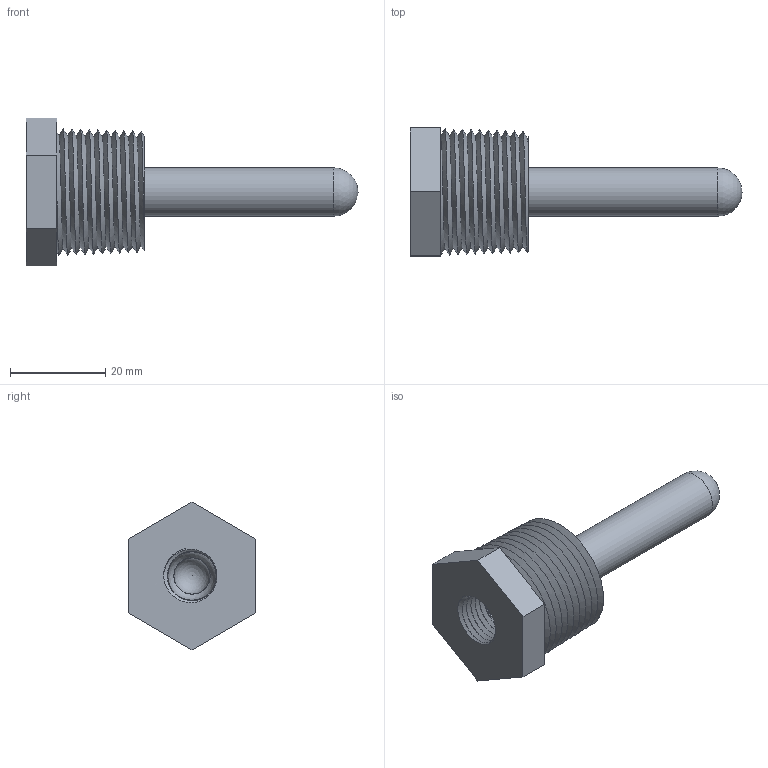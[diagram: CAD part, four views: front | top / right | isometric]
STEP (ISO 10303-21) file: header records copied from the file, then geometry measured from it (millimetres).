
FILE_DESCRIPTION(/* description */ (''),/* implementation_level */ '2;1');
FILE_NAME(/* name */ 'R:\Temp\J. Narvaez\IAN DRAWINGS\002 - Sensors\005 - MCS-WELL\14-002-3_4-B.stp',/* time_stamp */ '2022-11-14T09:48:53-05:00',/* author */ ('mjeter'),/* organization */ ('unknown'),/* preprocessor_version */ 'ST-DEVELOPER v19',/* originating_system */ 'Autodesk Inventor 2023',/* authorisation */ '');
FILE_SCHEMA (('AUTOMOTIVE_DESIGN { 1 0 10303 214 3 1 1 }'));
Length unit declared in the file: inch
Products named in the file (1): 14-002-3_4-B
Bounding box: 69.85 x 26.92 x 31.09 mm (x, y, z)
Volume: 12866.8 mm3; surface area: 7619.3 mm2
Topology: 1 solids, 1 shells, 21 faces, 62 edges, 44 vertices
Faces by surface type: plane 11, bspline 4, cylinder 3, sphere 2, cone 1
Full cylindrical faces by diameter (mm): 7.62 x1, 10.16 x1, 11.176 x1
Entity records: 6045 total; most frequent: CARTESIAN_POINT 5464, ORIENTED_EDGE 120, DIRECTION 92, EDGE_CURVE 60, VERTEX_POINT 44, AXIS2_PLACEMENT_3D 35, EDGE_LOOP 24, LINE 22
